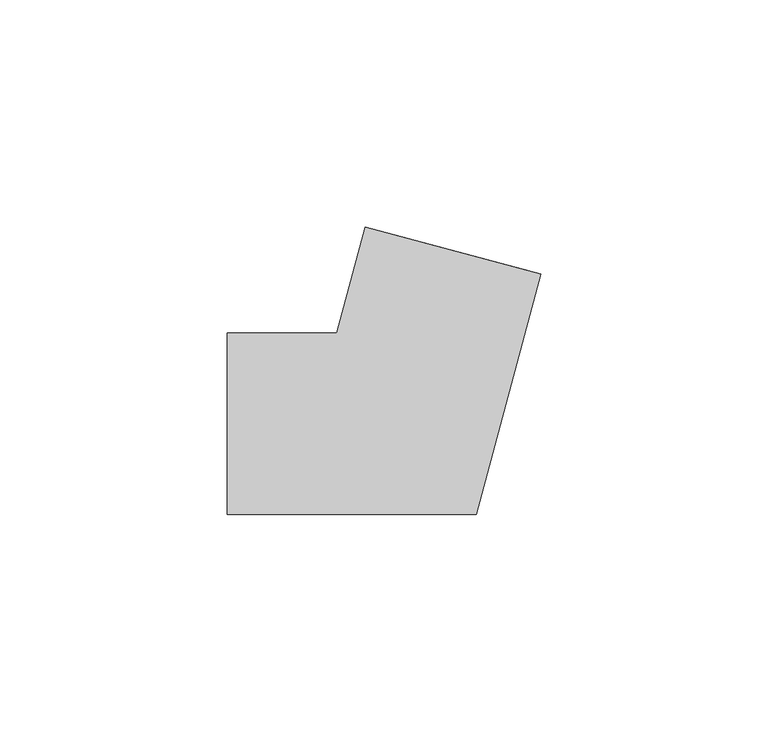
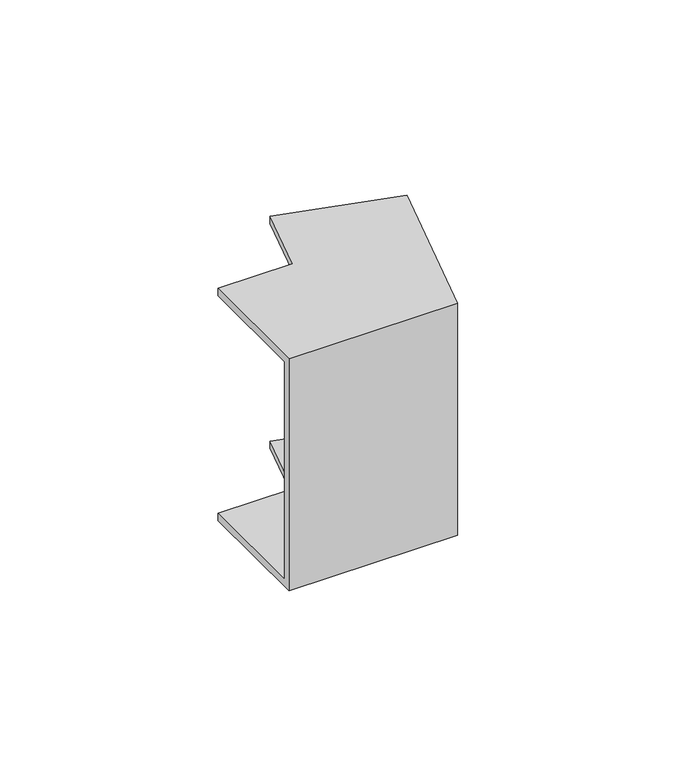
"""IFC4 building model written with IfcOpenShell, lengths in millimetres: cable carrier fitting geometry, КНС_УголВнутренний_ILC_DKC : Угол внутренний_DKC."""

import ifcopenshell
import ifcopenshell.guid

model = None  # the IFC model being written
_history = None  # IfcOwnerHistory: only IFC2X3 demands one
_inside = {}  # id of a spatial element -> (the spatial element, [elements in it])
_under = {}  # id of a project, library or spatial element -> (it, [spatial elements below it])
_declared = {}  # id of a project -> (the project, [libraries it declares])
_typed = {}  # id of a type object -> (the type object, [elements of that type])
_made_of = {}  # id of a material, layer set ... -> (it, [elements and type objects made of it])


def new_model(schema):
    """Start an empty IFC model of exactly this schema.

    Asked for "IFC4X3", IfcOpenShell would pick the latest addendum, in which some entities
    have other attributes; the version numbers below select the first issue.
    IFC2X3 requires an IfcOwnerHistory on every rooted entity: one is made here for all.
    """
    global model, _history
    if schema == "IFC4X3":
        model = ifcopenshell.file(schema_version=(4, 3, 0, 0))
    else:
        model = ifcopenshell.file(schema=schema)
    _inside.clear()
    _under.clear()
    _declared.clear()
    _typed.clear()
    _made_of.clear()
    _history = None
    if model.schema == "IFC2X3":
        org = make("IfcOrganization", Name="unknown")
        user = make(
            "IfcPersonAndOrganization",
            ThePerson=make("IfcPerson", FamilyName="unknown"),
            TheOrganization=org,
        )
        app = make(
            "IfcApplication",
            ApplicationDeveloper=org,
            Version="unknown",
            ApplicationFullName="unknown",
            ApplicationIdentifier="unknown",
        )
        _history = make(
            "IfcOwnerHistory",
            OwningUser=user,
            OwningApplication=app,
            ChangeAction="ADDED",
            CreationDate=0,
        )
    return model


def make(cls, **values):
    """One entity of the class cls with the attributes given. An attribute that is None is left unset."""
    return model.create_entity(
        cls, **{name: value for name, value in values.items() if value is not None}
    )


def rooted(cls, **values):
    """An entity with a GlobalId (a new one), such as an element, a storey or a relation."""
    return make(cls, GlobalId=ifcopenshell.guid.new(), OwnerHistory=_history, **values)


def si_unit(unit_type, name, prefix=None):
    """IfcSIUnit, for example si_unit("LENGTHUNIT", "METRE", prefix="MILLI")."""
    return make("IfcSIUnit", UnitType=unit_type, Prefix=prefix, Name=name)


def assignment(units):
    """IfcUnitAssignment: the units of a project."""
    return None if units is None else make("IfcUnitAssignment", Units=units)


def point(xyz):
    """IfcCartesianPoint."""
    return None if xyz is None else make("IfcCartesianPoint", Coordinates=xyz)


def direction(xyz):
    """IfcDirection."""
    return None if xyz is None else make("IfcDirection", DirectionRatios=xyz)


def frame(location, z_axis=None, x_axis=None):
    """IfcAxis2Placement3D, a coordinate frame: its origin and axes. An axis left out is left unset."""
    return make(
        "IfcAxis2Placement3D",
        Location=point(location),
        Axis=direction(z_axis),
        RefDirection=direction(x_axis),
    )


def origin():
    """The frame at (0, 0, 0) with its axes left unset."""
    return frame((0.0, 0.0, 0.0))


def place(relative_to, where):
    """IfcLocalPlacement: puts the frame where relative to a parent placement (None: the world)."""
    return make(
        "IfcLocalPlacement", PlacementRelTo=relative_to, RelativePlacement=where
    )


def context(
    kind, dimensions, precision=None, world=None, true_north=None, identifier=None
):
    """IfcGeometricRepresentationContext, for example the 3D "Model" context."""
    return make(
        "IfcGeometricRepresentationContext",
        ContextIdentifier=identifier,
        ContextType=kind,
        CoordinateSpaceDimension=dimensions,
        Precision=precision,
        WorldCoordinateSystem=world,
        TrueNorth=true_north,
    )


def project(units=None, contexts=None):
    """IfcProject with its units and contexts."""
    return rooted(
        "IfcProject",
        Name="project",
        RepresentationContexts=contexts,
        UnitsInContext=assignment(units),
    )


def spatial(cls, under=None, at=None, **own):
    """A site, building, storey or space (cls), placed at a placement, below another one or the project."""
    s = rooted(cls, ObjectPlacement=at, **own)
    if under is not None:
        _under.setdefault(under.id(), (under, []))[1].append(s)
    return s


def faces_of(points, faces, orient=None, outer=None):
    """IfcFace entities. A face is a list of loops; a loop is a list of indices into points, from 0.

    orient and outer hold one flag for each loop. By default every Orientation is true, the
    first loop of a face is its IfcFaceOuterBound and the others are IfcFaceBound.
    """
    made = []
    for i, loops in enumerate(faces):
        bounds = []
        for j, loop in enumerate(loops):
            is_outer = j == 0 if outer is None else outer[i][j]
            bounds.append(
                make(
                    "IfcFaceOuterBound" if is_outer else "IfcFaceBound",
                    Bound=make("IfcPolyLoop", Polygon=[points[k] for k in loop]),
                    Orientation=True if orient is None else orient[i][j],
                )
            )
        made.append(make("IfcFace", Bounds=bounds))
    return made


def faceted_brep(points, faces, orient=None, outer=None, voids=None):
    """IfcFacetedBrep: a solid bounded by flat faces; with voids (closed shells), ...WithVoids."""
    shared = [point(p) for p in points]
    hull = make("IfcClosedShell", CfsFaces=faces_of(shared, faces, orient, outer))
    if voids is None:
        return make("IfcFacetedBrep", Outer=hull)
    return make(
        "IfcFacetedBrepWithVoids",
        Outer=hull,
        Voids=[
            make(cls, CfsFaces=faces_of(shared, fs, o, b)) for cls, fs, o, b in voids
        ],
    )


def shape(context_of_items, identifier, shape_type, items):
    """IfcShapeRepresentation: the items that make up one representation, for example the "Body"."""
    return make(
        "IfcShapeRepresentation",
        ContextOfItems=context_of_items,
        RepresentationIdentifier=identifier,
        RepresentationType=shape_type,
        Items=items,
    )


def source(mapping_origin, context_of_items, identifier, shape_type, items):
    """IfcRepresentationMap: a shape defined once, which mapped items show again and again."""
    return make(
        "IfcRepresentationMap",
        MappingOrigin=mapping_origin,
        MappedRepresentation=shape(context_of_items, identifier, shape_type, items),
    )


def transform(
    local_origin,
    x_axis=None,
    y_axis=None,
    z_axis=None,
    scale=None,
    scale2=None,
    scale3=None,
    uniform=True,
):
    """IfcCartesianTransformationOperator3D, or its non-uniform kind. x_axis, y_axis, z_axis: its Axis1, 2, 3."""
    if uniform:
        return make(
            "IfcCartesianTransformationOperator3D",
            Axis1=direction(x_axis),
            Axis2=direction(y_axis),
            LocalOrigin=point(local_origin),
            Scale=scale,
            Axis3=direction(z_axis),
        )
    return make(
        "IfcCartesianTransformationOperator3DnonUniform",
        Axis1=direction(x_axis),
        Axis2=direction(y_axis),
        LocalOrigin=point(local_origin),
        Scale=scale,
        Axis3=direction(z_axis),
        Scale2=scale2,
        Scale3=scale3,
    )


def mapped(mapping_source, mapping_target):
    """IfcMappedItem: shows the shape of a source again, moved by a transform."""
    return make(
        "IfcMappedItem", MappingSource=mapping_source, MappingTarget=mapping_target
    )


def made_of(thing, what):
    """Note that an element or type object is made of a material, layer set ...; save() writes the relation."""
    if what is not None:
        _made_of.setdefault(what.id(), (what, []))[1].append(thing)
    return thing


def element(
    cls,
    number,
    at=None,
    inside=None,
    cuts=None,
    type_object=None,
    material=None,
    context=None,
    identifier="Body",
    shape_type=None,
    held_by="IfcProductDefinitionShape",
    body=None,
    shapes=None,
    **own,
):
    """One element of the class cls, such as IfcWall. Its Tag is "e" and its number.

    at: its placement. inside: the storey or other place that contains it. cuts: it is an
    opening in that element (IfcRelVoidsElement). A single representation is given by context,
    identifier, shape_type and body (its items); several are given by shapes. held_by: the class
    of the entity that holds the representations. save() writes the other relations.
    """
    e = rooted(cls, Tag="e%d" % number, ObjectPlacement=at, **own)
    if body is not None:
        shapes = [shape(context, identifier, shape_type, body)]
    if shapes is not None:
        e.Representation = make(held_by, Representations=shapes)
    if inside is not None:
        _inside.setdefault(inside.id(), (inside, []))[1].append(e)
    if cuts is not None:
        rooted(
            "IfcRelVoidsElement", RelatingBuildingElement=cuts, RelatedOpeningElement=e
        )
    if type_object is not None:
        _typed.setdefault(type_object.id(), (type_object, []))[1].append(e)
    return made_of(e, material)


def aggregate(whole, parts):
    """IfcRelAggregates: a whole, such as a stair, and the parts it consists of."""
    return rooted("IfcRelAggregates", RelatingObject=whole, RelatedObjects=parts)


def save(model, path):
    """Write the relations noted so far, then the file.

    IfcRelAggregates (storeys below a building ...), IfcRelContainedInSpatialStructure (elements
    in a storey), IfcRelDefinesByType, IfcRelAssociatesMaterial and IfcRelDeclares: one each for
    every whole, place, type object, material and project.
    """
    for whole, parts in _under.values():
        aggregate(whole, parts)
    for where, things in _inside.values():
        rooted(
            "IfcRelContainedInSpatialStructure",
            RelatedElements=things,
            RelatingStructure=where,
        )
    for kind, things in _typed.values():
        rooted("IfcRelDefinesByType", RelatedObjects=things, RelatingType=kind)
    for what, things in _made_of.values():
        rooted("IfcRelAssociatesMaterial", RelatedObjects=things, RelatingMaterial=what)
    for by, libraries in _declared.values():
        rooted("IfcRelDeclares", RelatingContext=by, RelatedDefinitions=libraries)
    model.write(path)


def cable_carrier_fitting_4b00b3e3(model_context):
    return source(origin(), model_context, "Body", "Brep", [
        faceted_brep([(-39.5297145, -20.0, 40.0), (-39.5297145, 20.0, 40.0), (-39.5297145, 20.0, 37.5), (-39.5297145, -17.5, 37.5), (-39.5297145, -17.5, -37.5), (-39.5297145, 20.0, -37.5), (-39.5297145, 20.0, -40.0), (-39.5297145, -20.0, -40.0), (29.5495595, 33.0063912, 40.0), (29.5495595, 33.0063912, -40.0), (-9.0874736, 43.359153, -40.0), (-9.0874736, 43.359153, -37.5), (27.1347449, 33.6534388, -37.5), (27.1347449, 33.6534388, 37.5), (-9.0874736, 43.359153, 37.5), (-9.0874736, 43.359153, 40.0), (15.3465398, -20.0, 40.0), (-15.3465398, 20.0, 40.0), (-15.3465398, 20.0, 37.5), (13.4282223, -17.5, 37.5), (13.4282223, -17.5, -37.5), (-15.3465398, 20.0, -37.5), (-15.3465398, 20.0, -40.0), (15.3465398, -20.0, -40.0)], [[[0, 1, 2, 3, 4, 5, 6, 7]], [[8, 9, 10, 11, 12, 13, 14, 15]], [[1, 0, 16, 8, 15, 17]], [[2, 1, 17, 18]], [[3, 2, 18, 14, 13, 19]], [[4, 3, 19, 20]], [[5, 4, 20, 12, 11, 21]], [[6, 5, 21, 22]], [[7, 6, 22, 10, 9, 23]], [[0, 7, 23, 16]], [[18, 17, 15, 14]], [[20, 19, 13, 12]], [[22, 21, 11, 10]], [[16, 23, 9, 8]]]),
    ])


if __name__ == "__main__":
    model = new_model("IFC4")
    model_context = context("Model", 3, world=origin())
    ifc_project = project(units=[si_unit("LENGTHUNIT", "METRE", prefix="MILLI")], contexts=[model_context])
    site = spatial("IfcSite", under=ifc_project)
    building = spatial("IfcBuilding", under=site)
    placement = place(None, origin())
    cable_carrier_fitting_shape = cable_carrier_fitting_4b00b3e3(model_context)
    element("IfcCableCarrierFitting", 1, ObjectType="КНС_УголВнутренний_ILC_DKC : Угол внутренний_DKC", at=placement, inside=building, context=model_context, shape_type="MappedRepresentation", body=[
        mapped(cable_carrier_fitting_shape, transform((0.0, 0.0, 0.0), x_axis=(1.0, 0.0, 0.0), y_axis=(0.0, 1.0, 0.0), z_axis=(0.0, 0.0, 1.0))),
    ])
    save(model, "model.ifc")
